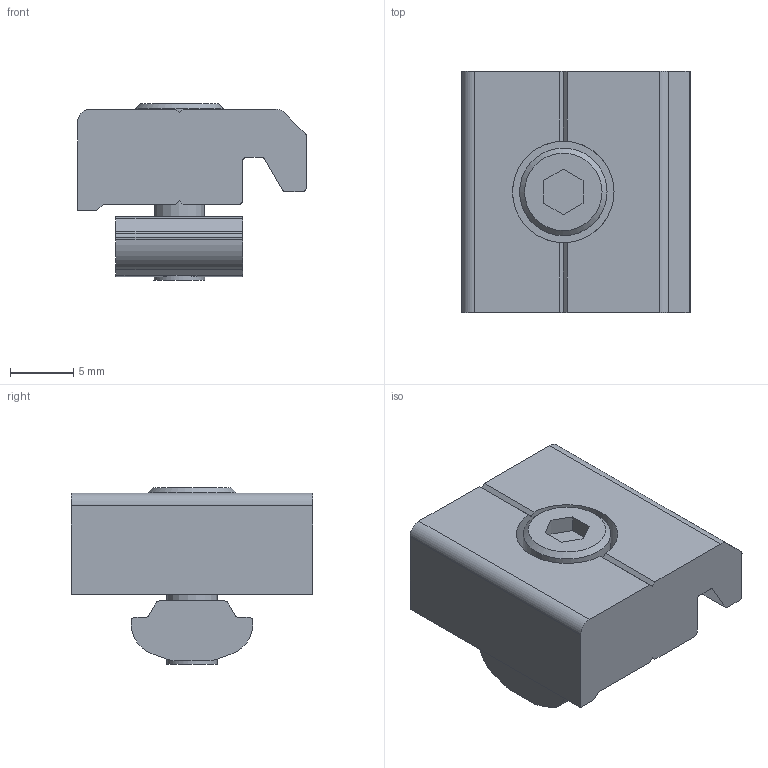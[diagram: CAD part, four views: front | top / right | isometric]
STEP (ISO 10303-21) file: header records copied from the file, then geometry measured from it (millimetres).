
FILE_DESCRIPTION(('STEP AP214'),'1');
FILE_NAME('SL1B-L19.stp','2016-10-19T00:56:45',(' '),(' '),'Spatial InterOp 3D',' ',' ');
FILE_SCHEMA(('automotive_design'));
Length unit declared in the file: millimetre
Products named in the file (4): SL1B-L19; SL1H-L19; ねじ: 穴付き - M4.0 x 10.0; NF25-M4
Assembly tree (3 placements, depth 2):
  SL1B-L19
    SL1H-L19
    ねじ: 穴付き - M4.0 x 10.0
    NF25-M4
Bounding box: 18 x 19 x 13.94 mm (x, y, z)
Volume: 2638.7 mm3; surface area: 2029.2 mm2
Topology: 3 solids, 3 shells, 74 faces, 201 edges, 133 vertices
Faces by surface type: plane 48, cylinder 24, cone 2
Full cylindrical faces by diameter (mm): 4 x1, 4.5 x1, 6.9 x1, 8 x1
Entity records: 2999 total; most frequent: CARTESIAN_POINT 424, DIRECTION 406, ORIENTED_EDGE 388, EDGE_CURVE 194, AXIS2_PLACEMENT_3D 138, VERTEX_POINT 132, LINE 130, VECTOR 130
